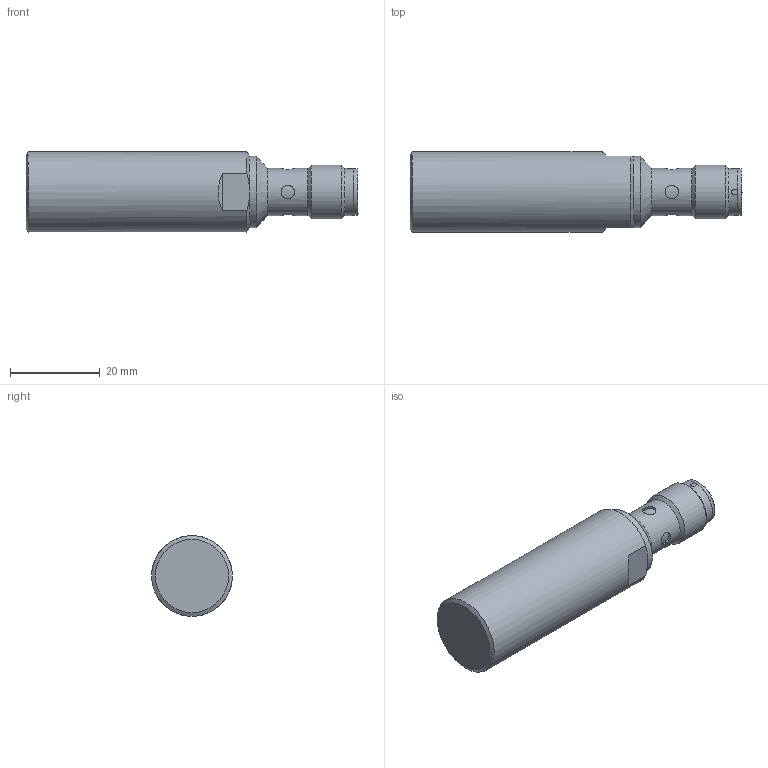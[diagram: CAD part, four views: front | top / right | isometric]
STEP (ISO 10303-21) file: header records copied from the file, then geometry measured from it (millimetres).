
FILE_DESCRIPTION(/* description */ (''),/* implementation_level */ '2;1');
FILE_NAME(/* name */ 'V:\AUTOCAD\_tegninger\Stepfiles - 3D\ICS\ICS18xxxxxxxxE1\ICS18L50F08xxM1E1.stp',/* time_stamp */ '2020-08-05T13:53:17+02:00',/* author */ ('TVB'),/* organization */ (''),/* preprocessor_version */ 'ST-DEVELOPER v18',/* originating_system */ 'Autodesk Inventor 2020',/* authorisation */ '');
FILE_SCHEMA (('AUTOMOTIVE_DESIGN { 1 0 10303 214 3 1 1 }'));
Length unit declared in the file: millimetre
Products named in the file (1): ICS18L50F08xxM1E1
Bounding box: 73.95 x 18 x 18 mm (x, y, z)
Volume: 14637.1 mm3; surface area: 5104.1 mm2
Topology: 1 solids, 1 shells, 81 faces, 232 edges, 153 vertices
Faces by surface type: cylinder 28, plane 27, cone 16, torus 5, sphere 4, bspline 1
Full cylindrical faces by diameter (mm): 1 x4, 3 x4, 8.157 x1, 9.37 x1, 9.5 x1, 10.5 x2, 12 x1, 16 x1, 18 x1
Entity records: 3874 total; most frequent: CARTESIAN_POINT 1661, ORIENTED_EDGE 456, DIRECTION 445, EDGE_CURVE 228, AXIS2_PLACEMENT_3D 181, VERTEX_POINT 153, CIRCLE 95, EDGE_LOOP 89
